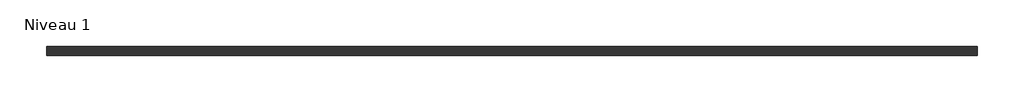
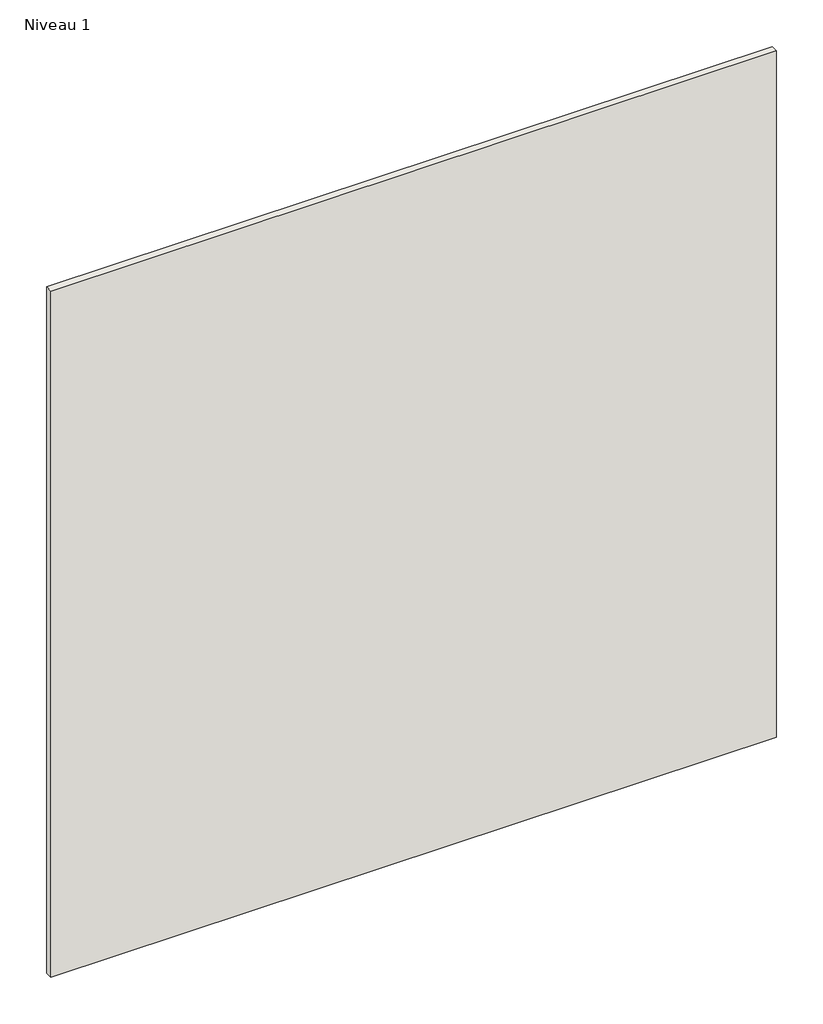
# One storey: 1 wall.
"""IFC4 building model written with IfcOpenShell, lengths in millimetres."""

from ifc_helpers import new_model, si_unit, origin, origin_with_axes, place, context, project, spatial, polyline, outline, extrude, element, save

model = new_model("IFC4")

# Units and contexts
model_context = context("Model", 3, world=origin())
ifc_project = project(units=[si_unit("LENGTHUNIT", "METRE", prefix="MILLI")], contexts=[model_context])

# Site, building, storey
site = spatial("IfcSite", under=ifc_project)
building = spatial("IfcBuilding", under=site)
storey = spatial("IfcBuildingStorey", under=building, Name="Niveau 1", Elevation=0.0)

# Wall
placement = place(None, origin())
element("IfcWall", 1, ObjectType="B2-BRIQUE-ROUGE", at=placement, inside=storey, context=model_context, shape_type="SweptSolid", body=[
    extrude(outline(polyline([(328.4480375, 179.0606033), (-1671.5519625, 179.0606033), (-1671.5519625, 199.0606033), (328.4480375, 199.0606033), (328.4480375, 179.0606033)])), origin_with_axes(), (0.0, 0.0, 1.0), 2000.0),
])

save(model, "model.ifc")
